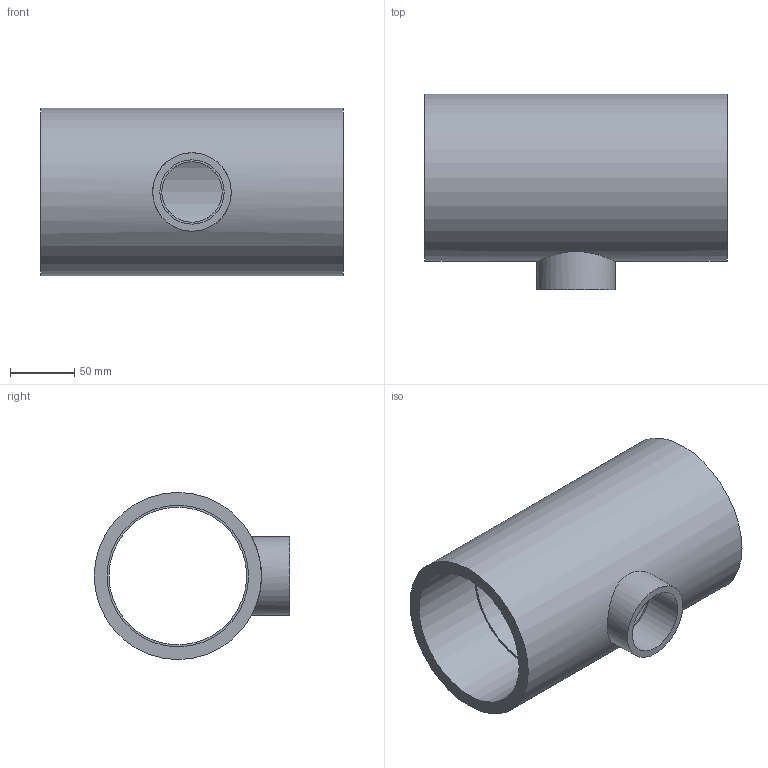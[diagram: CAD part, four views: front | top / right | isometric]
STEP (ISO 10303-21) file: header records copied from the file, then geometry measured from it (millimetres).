
FILE_DESCRIPTION(/* description */ ('PVC ti a 90° ridotto incollaggio metrico'),/* implementation_level */ '2;1');
FILE_NAME(/* name */ 'C:\Users\POLYPIPE\Desktop\DATASET INVENTOR\LIBRERIA EFFAST\RACCORDI 3DxWEB\RDR\3D_RDRTRD\3D_RDRTRD110F.stp',/* time_stamp */ '2018-01-19T15:49:18+01:00',/* author */ ('POLYPIPE'),/* organization */ ('Polypipe Italia s.r.l.'),/* preprocessor_version */ 'ST-DEVELOPER v16.1',/* originating_system */ 'Autodesk Inventor 2016',/* authorisation */ '');
FILE_SCHEMA (('CONFIG_CONTROL_DESIGN'));
Length unit declared in the file: millimetre
Products named in the file (1): 3D_RDRTRD
Bounding box: 235 x 152 x 130 mm (x, y, z)
Volume: 946012.4 mm3; surface area: 191672.4 mm2
Topology: 1 solids, 1 shells, 13 faces, 23 edges, 16 vertices
Faces by surface type: cylinder 7, plane 6
Full cylindrical faces by diameter (mm): 47 x1, 50 x1, 61 x1, 107 x1, 110 x2, 130 x1
Entity records: 430 total; most frequent: CARTESIAN_POINT 172, DIRECTION 52, EDGE_LOOP 28, ORIENTED_EDGE 28, AXIS2_PLACEMENT_3D 26, FACE_BOUND 15, VERTEX_POINT 14, EDGE_CURVE 14
